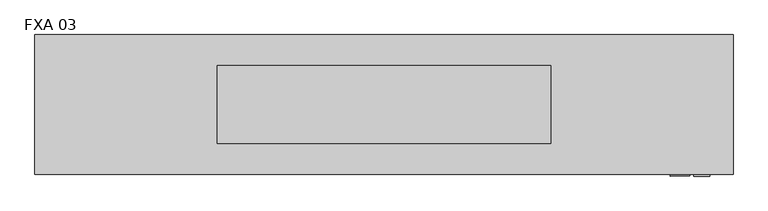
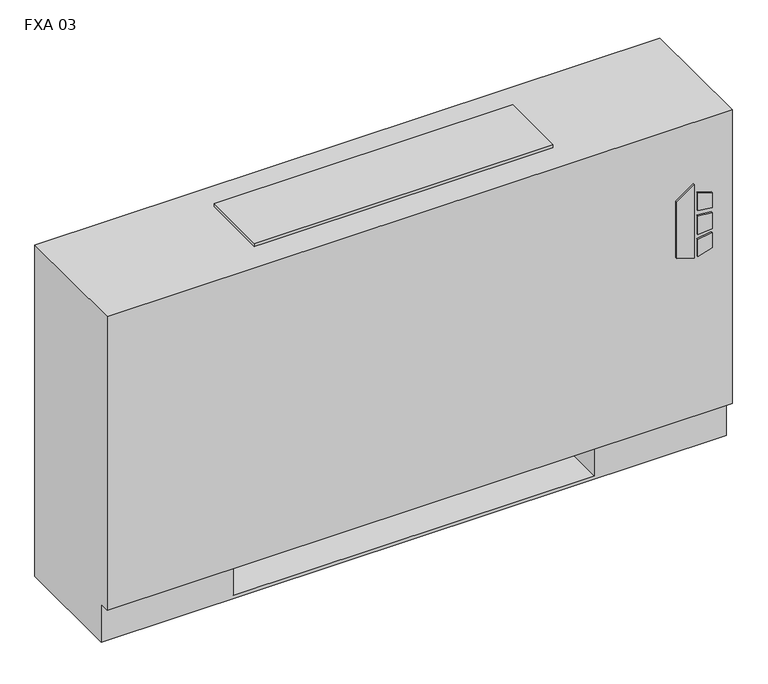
"""IFC4 building model written with IfcOpenShell, lengths in millimetres: proxy geometry, Vertical_Fan_Coil_Unit_-_FXA_-_IEC_-_4-Pipe_TS-FR_LH_2022 : FXA 03."""

from ifc_helpers import new_model, si_unit, point, frame, frame_2d, origin, place, context, project, spatial, polyline, circle_curve, trimmed, segment, composite_curve, outline, extrude, source, transform, mapped, element, save
from ifc_brep_helpers import plane_surface, revolved_surface, advanced_brep


def fxa_03_145d4354(model_context):
    return source(origin(), model_context, "Body", "SolidModel", [
        extrude(outline(polyline([(391.6086829, 620.7868862), (381.6606126, 652.9602728), (523.831537, 652.9602728), (500.8095309, 620.7868862), (391.6086829, 620.7868862)])), frame((0.0, 12.7, 0.0), z_axis=(0.0, 1.0, 0.0), x_axis=(0.0, 0.0, 1.0)), (0.0, 0.0, 1.0), 3.175),
        extrude(outline(polyline([(470.6079683, 659.7186058), (467.4055757, 685.8), (496.6344168, 685.8), (504.6988318, 659.7186058), (470.6079683, 659.7186058)])), frame((0.0, 12.7, 0.0), z_axis=(0.0, 1.0, 0.0), x_axis=(0.0, 0.0, 1.0)), (0.0, 0.0, 1.0), 3.175),
        extrude(outline(polyline([(418.7444414, 685.8), (415.0789404, 659.7186058), (381.6606126, 659.7186058), (390.2948498, 685.8), (418.7444414, 685.8)])), frame((0.0, 12.7, 0.0), z_axis=(0.0, 1.0, 0.0), x_axis=(0.0, 0.0, 1.0)), (0.0, 0.0, 1.0), 3.175),
        extrude(outline(polyline([(458.0596028, 685.8), (460.3414292, 659.7186058), (424.4038806, 659.7186058), (427.1451456, 685.8), (458.0596028, 685.8)])), frame((0.0, 12.7, 0.0), z_axis=(0.0, 1.0, 0.0), x_axis=(0.0, 0.0, 1.0)), (0.0, 0.0, 1.0), 3.175),
        extrude(outline(polyline([(603.25, 223.266), (603.25, 81.534), (482.6, 81.534), (482.6, 223.266), (603.25, 223.266)])), frame((0.0, 0.0, 327.025), z_axis=(0.0, 0.0, 1.0), x_axis=(1.0, 0.0, 0.0)), (0.0, 0.0, 1.0), 260.35),
        extrude(outline(composite_curve([segment(trimmed(circle_curve(frame_2d((-241.3, 130.175)), 9.525), [point((-250.825, 130.175))], [point((-231.775, 130.175))], False, "CARTESIAN"), True, "CONTINUOUS"), segment(trimmed(circle_curve(frame_2d((-241.3, 130.175)), 9.525), [point((-231.775, 130.175))], [point((-250.825, 130.175))], False, "CARTESIAN"), True, "CONTINUOUS")], self_intersect=False)), frame((0.0, 0.0, 101.6), z_axis=(0.0, 0.0, 1.0), x_axis=(1.0, 0.0, 0.0)), (0.0, 0.0, 1.0), 25.4),
        extrude(outline(polyline([(-336.55, 63.5), (-336.55, 196.85), (-177.8, 196.85), (-177.8, 63.5), (-336.55, 63.5)])), frame((0.0, 0.0, 127.0), z_axis=(0.0, 0.0, 1.0), x_axis=(1.0, 0.0, 0.0)), (0.0, 0.0, 1.0), 50.8),
        extrude(outline(composite_curve([segment(trimmed(circle_curve(frame_2d((117.475, 472.44)), 7.9375), [point((117.475, 480.3775))], [point((117.475, 464.5025))], False, "CARTESIAN"), True, "CONTINUOUS"), segment(trimmed(circle_curve(frame_2d((117.475, 472.44)), 7.9375), [point((117.475, 464.5025))], [point((117.475, 480.3775))], False, "CARTESIAN"), True, "CONTINUOUS")], self_intersect=False)), frame((-228.6, 0.0, 0.0), z_axis=(1.0, 0.0, 0.0), x_axis=(0.0, 1.0, 0.0)), (0.0, 0.0, 1.0), 50.8),
        extrude(outline(composite_curve([segment(trimmed(circle_curve(frame_2d((164.0586, 445.897)), 7.9375), [point((164.0586, 453.8345))], [point((164.0586, 437.9595))], False, "CARTESIAN"), True, "CONTINUOUS"), segment(trimmed(circle_curve(frame_2d((164.0586, 445.897)), 7.9375), [point((164.0586, 437.9595))], [point((164.0586, 453.8345))], False, "CARTESIAN"), True, "CONTINUOUS")], self_intersect=False)), frame((-228.6, 0.0, 0.0), z_axis=(1.0, 0.0, 0.0), x_axis=(0.0, 1.0, 0.0)), (0.0, 0.0, 1.0), 50.8),
        extrude(outline(composite_curve([segment(trimmed(circle_curve(frame_2d((130.175, 554.99)), 7.9502), [point((130.175, 562.9402))], [point((130.175, 547.0398))], False, "CARTESIAN"), True, "CONTINUOUS"), segment(trimmed(circle_curve(frame_2d((130.175, 554.99)), 7.9502), [point((130.175, 547.0398))], [point((130.175, 562.9402))], False, "CARTESIAN"), True, "CONTINUOUS")], self_intersect=False)), frame((-228.6, 0.0, 0.0), z_axis=(1.0, 0.0, 0.0), x_axis=(0.0, 1.0, 0.0)), (0.0, 0.0, 1.0), 50.8),
        extrude(outline(composite_curve([segment(trimmed(circle_curve(frame_2d((53.975, 416.56)), 7.9502), [point((53.975, 424.5102))], [point((53.975, 408.6098))], False, "CARTESIAN"), True, "CONTINUOUS"), segment(trimmed(circle_curve(frame_2d((53.975, 416.56)), 7.9502), [point((53.975, 408.6098))], [point((53.975, 424.5102))], False, "CARTESIAN"), True, "CONTINUOUS")], self_intersect=False)), frame((-228.6, 0.0, 0.0), z_axis=(1.0, 0.0, 0.0), x_axis=(0.0, 1.0, 0.0)), (0.0, 0.0, 1.0), 50.8),
        advanced_brep(
        [(723.9, 244.475, 641.35), (-419.1, 244.475, 641.35), (-419.1, 15.875, 641.35), (723.9, 15.875, 641.35), (-419.1, 244.475, 0.0), (723.9, 244.475, 0.0), (723.9, 34.925, 0.0), (-419.1, 34.925, 0.0), (482.6, 244.475, 73.025), (711.2, 244.475, 73.025), (711.2, 244.475, 628.65), (482.6, 244.475, 628.65), (482.6, 244.475, 414.8650565), (511.175, 244.475, 414.8650565), (511.175, 244.475, 385.2349435), (482.6, 244.475, 385.2349435), (482.6, 244.475, 287.3375), (511.175, 244.475, 287.3375), (511.175, 244.475, 258.7625), (482.6, 244.475, 258.7625), (482.6, 244.475, 141.2875), (511.175, 244.475, 141.2875), (511.175, 244.475, 112.7125), (482.6, 244.475, 112.7125), (-177.8, 244.475, 628.65), (-406.4, 244.475, 628.65), (-406.4, 244.475, 73.025), (-177.8, 244.475, 73.025), (-177.8, 244.475, 112.7125), (-206.375, 244.475, 112.7125), (-206.375, 244.475, 141.2875), (-177.8, 244.475, 141.2875), (-177.8, 244.475, 258.7625), (-206.375, 244.475, 258.7625), (-206.375, 244.475, 287.3375), (-177.8, 244.475, 287.3375), (-177.8, 244.475, 385.2349435), (-206.375, 244.475, 385.2349435), (-206.375, 244.475, 414.8650565), (-177.8, 244.475, 414.8650565), (500.8626, 244.475, 127.0), (489.7374, 244.475, 127.0), (500.8626, 244.475, 400.05), (489.7374, 244.475, 400.05), (500.8626, 244.475, 273.05), (489.7374, 244.475, 273.05), (-184.9374, 244.475, 127.0), (-196.0626, 244.475, 127.0), (-184.9374, 244.475, 273.05), (-196.0626, 244.475, 273.05), (-184.9374, 244.475, 400.05), (-196.0626, 244.475, 400.05), (-419.1, 34.925, 73.025), (-419.1, 15.875, 73.025), (723.9, 15.875, 73.025), (723.9, 34.925, 73.025), (-177.8, 34.925, 73.025), (-177.8, 219.075, 73.025), (482.6, 219.075, 73.025), (482.6, 34.925, 73.025), (482.6, 34.925, 6.35), (-177.8, 34.925, 6.35), (482.6, 41.275, 628.65), (711.2, 41.275, 628.65), (711.2, 41.275, 73.025), (482.6, 41.275, 73.025), (-177.8, 41.275, 628.65), (-177.8, 41.275, 73.025), (-406.4, 41.275, 73.025), (-406.4, 41.275, 628.65), (482.6, 219.075, 73.025), (482.6, 238.125, 112.7125), (482.6, 238.125, 141.2875), (482.6, 238.125, 258.7625), (482.6, 238.125, 287.3375), (482.6, 238.125, 385.2349435), (482.6, 238.125, 414.8650565), (-177.8, 219.075, 73.025), (-177.8, 238.125, 414.8650565), (-177.8, 238.125, 385.2349435), (-177.8, 238.125, 287.3375), (-177.8, 238.125, 258.7625), (-177.8, 238.125, 141.2875), (-177.8, 238.125, 112.7125), (-177.8, 219.075, 6.35), (482.6, 219.075, 6.35), (511.175, 238.125, 112.7125), (511.175, 238.125, 141.2875), (489.7374, 238.125, 127.0), (500.8626, 238.125, 127.0), (511.175, 238.125, 258.7625), (511.175, 238.125, 287.3375), (489.7374, 238.125, 273.05), (500.8626, 238.125, 273.05), (511.175, 238.125, 385.2349435), (511.175, 238.125, 414.8650565), (489.7374, 238.125, 400.05), (500.8626, 238.125, 400.05), (-206.375, 238.125, 141.2875), (-206.375, 238.125, 112.7125), (-196.0626, 238.125, 127.0), (-184.9374, 238.125, 127.0), (-206.375, 238.125, 287.3375), (-206.375, 238.125, 258.7625), (-196.0626, 238.125, 273.05), (-184.9374, 238.125, 273.05), (-206.375, 238.125, 414.8650565), (-206.375, 238.125, 385.2349435), (-196.0626, 238.125, 400.05), (-184.9374, 238.125, 400.05)],
        [
            (0, 1),
            (1, 2),
            (2, 3),
            (3, 0),
            (4, 5),
            (5, 6),
            (6, 7),
            (7, 4),
            (0, 5),
            (4, 1),
            (8, 9),
            (9, 10),
            (10, 11),
            (11, 12),
            (12, 13),
            (13, 14),
            (14, 15),
            (15, 16),
            (16, 17),
            (17, 18),
            (18, 19),
            (19, 20),
            (20, 21),
            (21, 22),
            (22, 23),
            (23, 8),
            (24, 25),
            (25, 26),
            (26, 27),
            (27, 28),
            (28, 29),
            (29, 30),
            (30, 31),
            (31, 32),
            (32, 33),
            (33, 34),
            (34, 35),
            (35, 36),
            (36, 37),
            (37, 38),
            (38, 39),
            (39, 24),
            (40, 41, circle_curve(frame((495.3, 244.475, 127.0), z_axis=(0.0, -1.0, 0.0), x_axis=(-1.0, 0.0, 0.0)), 5.5626)),
            (41, 40, circle_curve(frame((495.3, 244.475, 127.0), z_axis=(0.0, -1.0, 0.0), x_axis=(-1.0, 0.0, 0.0)), 5.5626)),
            (42, 43, circle_curve(frame((495.3, 244.475, 400.05), z_axis=(0.0, -1.0, 0.0), x_axis=(-1.0, 0.0, 0.0)), 5.5626)),
            (43, 42, circle_curve(frame((495.3, 244.475, 400.05), z_axis=(0.0, -1.0, 0.0), x_axis=(-1.0, 0.0, 0.0)), 5.5626)),
            (44, 45, circle_curve(frame((495.3, 244.475, 273.05), z_axis=(0.0, -1.0, 0.0), x_axis=(-1.0, 0.0, 0.0)), 5.5626)),
            (45, 44, circle_curve(frame((495.3, 244.475, 273.05), z_axis=(0.0, -1.0, 0.0), x_axis=(-1.0, 0.0, 0.0)), 5.5626)),
            (46, 47, circle_curve(frame((-190.5, 244.475, 127.0), z_axis=(0.0, -1.0, 0.0), x_axis=(-1.0, 0.0, 0.0)), 5.5626)),
            (47, 46, circle_curve(frame((-190.5, 244.475, 127.0), z_axis=(0.0, -1.0, 0.0), x_axis=(-1.0, 0.0, 0.0)), 5.5626)),
            (48, 49, circle_curve(frame((-190.5, 244.475, 273.05), z_axis=(0.0, -1.0, 0.0), x_axis=(-1.0, 0.0, 0.0)), 5.5626)),
            (49, 48, circle_curve(frame((-190.5, 244.475, 273.05), z_axis=(0.0, -1.0, 0.0), x_axis=(-1.0, 0.0, 0.0)), 5.5626)),
            (50, 51, circle_curve(frame((-190.5, 244.475, 400.05), z_axis=(0.0, -1.0, 0.0), x_axis=(-1.0, 0.0, 0.0)), 5.5626)),
            (51, 50, circle_curve(frame((-190.5, 244.475, 400.05), z_axis=(0.0, -1.0, 0.0), x_axis=(-1.0, 0.0, 0.0)), 5.5626)),
            (7, 52),
            (52, 53),
            (53, 2),
            (53, 54),
            (54, 3),
            (54, 55),
            (55, 6),
            (52, 56),
            (56, 57),
            (57, 58),
            (58, 59),
            (59, 55),
            (59, 60),
            (60, 61),
            (61, 56),
            (62, 63),
            (63, 64),
            (64, 65),
            (65, 62),
            (66, 67),
            (67, 68),
            (68, 69),
            (69, 66),
            (65, 70),
            (70, 8),
            (23, 71),
            (71, 72),
            (72, 20),
            (19, 73),
            (73, 74),
            (74, 16),
            (15, 75),
            (75, 76),
            (76, 12),
            (11, 62),
            (64, 9),
            (63, 10),
            (69, 25),
            (24, 66),
            (68, 26),
            (67, 77),
            (77, 27),
            (39, 78),
            (78, 79),
            (79, 36),
            (35, 80),
            (80, 81),
            (81, 32),
            (31, 82),
            (82, 83),
            (83, 28),
            (57, 84),
            (84, 85),
            (85, 58),
            (85, 60),
            (84, 61),
            (71, 86),
            (86, 87),
            (87, 72),
            (88, 89, circle_curve(frame((495.3, 238.125, 127.0), z_axis=(0.0, 1.0, 0.0), x_axis=(-1.0, 0.0, 0.0)), 5.5626)),
            (89, 88, circle_curve(frame((495.3, 238.125, 127.0), z_axis=(0.0, 1.0, 0.0), x_axis=(-1.0, 0.0, 0.0)), 5.5626)),
            (73, 90),
            (90, 91),
            (91, 74),
            (92, 93, circle_curve(frame((495.3, 238.125, 273.05), z_axis=(0.0, 1.0, 0.0), x_axis=(-1.0, 0.0, 0.0)), 5.5626)),
            (93, 92, circle_curve(frame((495.3, 238.125, 273.05), z_axis=(0.0, 1.0, 0.0), x_axis=(-1.0, 0.0, 0.0)), 5.5626)),
            (75, 94),
            (94, 95),
            (95, 76),
            (96, 97, circle_curve(frame((495.3, 238.125, 400.05), z_axis=(0.0, 1.0, 0.0), x_axis=(-1.0, 0.0, 0.0)), 5.5626)),
            (97, 96, circle_curve(frame((495.3, 238.125, 400.05), z_axis=(0.0, 1.0, 0.0), x_axis=(-1.0, 0.0, 0.0)), 5.5626)),
            (98, 99),
            (99, 83),
            (82, 98),
            (100, 101, circle_curve(frame((-190.5, 238.125, 127.0), z_axis=(0.0, 1.0, 0.0), x_axis=(-1.0, 0.0, 0.0)), 5.5626)),
            (101, 100, circle_curve(frame((-190.5, 238.125, 127.0), z_axis=(0.0, 1.0, 0.0), x_axis=(-1.0, 0.0, 0.0)), 5.5626)),
            (102, 103),
            (103, 81),
            (80, 102),
            (104, 105, circle_curve(frame((-190.5, 238.125, 273.05), z_axis=(0.0, 1.0, 0.0), x_axis=(-1.0, 0.0, 0.0)), 5.5626)),
            (105, 104, circle_curve(frame((-190.5, 238.125, 273.05), z_axis=(0.0, 1.0, 0.0), x_axis=(-1.0, 0.0, 0.0)), 5.5626)),
            (106, 107),
            (107, 79),
            (78, 106),
            (108, 109, circle_curve(frame((-190.5, 238.125, 400.05), z_axis=(0.0, 1.0, 0.0), x_axis=(-1.0, 0.0, 0.0)), 5.5626)),
            (109, 108, circle_curve(frame((-190.5, 238.125, 400.05), z_axis=(0.0, 1.0, 0.0), x_axis=(-1.0, 0.0, 0.0)), 5.5626)),
            (87, 21),
            (86, 22),
            (91, 17),
            (90, 18),
            (95, 13),
            (94, 14),
            (30, 98),
            (99, 29),
            (34, 102),
            (103, 33),
            (38, 106),
            (107, 37),
            (88, 41),
            (40, 89),
            (96, 43),
            (42, 97),
            (92, 45),
            (44, 93),
            (100, 47),
            (46, 101),
            (104, 49),
            (48, 105),
            (108, 51),
            (50, 109),
        ],
        [
            plane_surface(frame((-419.1, 244.475, 641.35), z_axis=(0.0, 0.0, 1.0), x_axis=(-1.0, 0.0, 0.0))),
            plane_surface(frame((-419.1, 244.475, 0.0), z_axis=(0.0, 0.0, -1.0), x_axis=(1.0, 0.0, 0.0))),
            plane_surface(frame((723.9, 244.475, 641.35), z_axis=(0.0, 1.0, 0.0), x_axis=(0.0, 0.0, -1.0))),
            plane_surface(frame((-419.1, 244.475, 641.35), z_axis=(-1.0, 0.0, 0.0), x_axis=(0.0, 0.0, -1.0))),
            plane_surface(frame((-419.1, 15.875, 641.35), z_axis=(0.0, -1.0, 0.0), x_axis=(0.0, 0.0, -1.0))),
            plane_surface(frame((723.9, 15.875, 641.35), z_axis=(1.0, 0.0, 0.0), x_axis=(0.0, 0.0, -1.0))),
            plane_surface(frame((-419.1, 15.875, 73.025), z_axis=(0.0, 0.0, -1.0), x_axis=(1.0, 0.0, 0.0))),
            plane_surface(frame((-419.1, 34.925, 73.025), z_axis=(0.0, -1.0, 0.0), x_axis=(1.0, 0.0, 0.0))),
            plane_surface(frame((482.6, 41.275, 628.65), z_axis=(0.0, 1.0, 0.0), x_axis=(0.0, 0.0, -1.0))),
            plane_surface(frame((482.6, 41.275, 628.65), z_axis=(1.0, 0.0, 0.0), x_axis=(0.0, 1.0, 0.0))),
            plane_surface(frame((482.6, 41.275, 73.025), z_axis=(0.0, 0.0, 1.0), x_axis=(0.0, 1.0, 0.0))),
            plane_surface(frame((711.2, 41.275, 73.025), z_axis=(-1.0, 0.0, 0.0), x_axis=(0.0, 1.0, 0.0))),
            plane_surface(frame((711.2, 41.275, 628.65), z_axis=(0.0, 0.0, -1.0), x_axis=(0.0, 1.0, 0.0))),
            plane_surface(frame((-177.8, 41.275, 628.65), z_axis=(0.0, 0.0, -1.0), x_axis=(0.0, 1.0, 0.0))),
            plane_surface(frame((-406.4, 41.275, 628.65), z_axis=(1.0, 0.0, 0.0), x_axis=(0.0, 1.0, 0.0))),
            plane_surface(frame((-406.4, 41.275, 73.025), z_axis=(0.0, 0.0, 1.0), x_axis=(0.0, 1.0, 0.0))),
            plane_surface(frame((-177.8, 41.275, 73.025), z_axis=(-1.0, 0.0, 0.0), x_axis=(0.0, 1.0, 0.0))),
            plane_surface(frame((482.6, 219.075, 73.025), z_axis=(0.0, -1.0, 0.0), x_axis=(0.0, 0.0, -1.0))),
            plane_surface(frame((482.6, 219.075, 73.025), z_axis=(-1.0, 0.0, 0.0), x_axis=(0.0, -1.0, 0.0))),
            plane_surface(frame((482.6, 219.075, 6.35), z_axis=(0.0, 0.0, 1.0), x_axis=(0.0, -1.0, 0.0))),
            plane_surface(frame((-177.8, 219.075, 6.35), z_axis=(1.0, 0.0, 0.0), x_axis=(0.0, -1.0, 0.0))),
            plane_surface(frame((511.175, 238.125, 141.2875), z_axis=(0.0, -1.0, 0.0), x_axis=(-1.0, 0.0, 0.0))),
            plane_surface(frame((482.6, 244.475, 141.2875), z_axis=(0.0, 0.0, 1.0), x_axis=(0.0, -1.0, 0.0))),
            plane_surface(frame((511.175, 244.475, 141.2875), z_axis=(1.0, 0.0, 0.0), x_axis=(0.0, -1.0, 0.0))),
            plane_surface(frame((511.175, 244.475, 112.7125), z_axis=(0.0, 0.0, -1.0), x_axis=(0.0, -1.0, 0.0))),
            plane_surface(frame((482.6, 244.475, 287.3375), z_axis=(0.0, 0.0, 1.0), x_axis=(0.0, -1.0, 0.0))),
            plane_surface(frame((511.175, 244.475, 287.3375), z_axis=(1.0, 0.0, 0.0), x_axis=(0.0, -1.0, 0.0))),
            plane_surface(frame((511.175, 244.475, 258.7625), z_axis=(0.0, 0.0, -1.0), x_axis=(0.0, -1.0, 0.0))),
            plane_surface(frame((482.6, 244.475, 414.8650565), z_axis=(0.0, 0.0, 1.0), x_axis=(0.0, -1.0, 0.0))),
            plane_surface(frame((511.175, 244.475, 414.8650565), z_axis=(1.0, 0.0, 0.0), x_axis=(0.0, -1.0, 0.0))),
            plane_surface(frame((511.175, 244.475, 385.2349435), z_axis=(0.0, 0.0, -1.0), x_axis=(0.0, -1.0, 0.0))),
            plane_surface(frame((-206.375, 244.475, 141.2875), z_axis=(0.0, 0.0, 1.0), x_axis=(0.0, -1.0, 0.0))),
            plane_surface(frame((-177.8, 244.475, 112.7125), z_axis=(0.0, 0.0, -1.0), x_axis=(0.0, -1.0, 0.0))),
            plane_surface(frame((-206.375, 244.475, 112.7125), z_axis=(-1.0, 0.0, 0.0), x_axis=(0.0, -1.0, 0.0))),
            plane_surface(frame((-206.375, 244.475, 287.3375), z_axis=(0.0, 0.0, 1.0), x_axis=(0.0, -1.0, 0.0))),
            plane_surface(frame((-177.8, 244.475, 258.7625), z_axis=(0.0, 0.0, -1.0), x_axis=(0.0, -1.0, 0.0))),
            plane_surface(frame((-206.375, 244.475, 258.7625), z_axis=(-1.0, 0.0, 0.0), x_axis=(0.0, -1.0, 0.0))),
            plane_surface(frame((-206.375, 244.475, 414.8650565), z_axis=(0.0, 0.0, 1.0), x_axis=(0.0, -1.0, 0.0))),
            plane_surface(frame((-177.8, 244.475, 385.2349435), z_axis=(0.0, 0.0, -1.0), x_axis=(0.0, -1.0, 0.0))),
            plane_surface(frame((-206.375, 244.475, 385.2349435), z_axis=(-1.0, 0.0, 0.0), x_axis=(0.0, -1.0, 0.0))),
            revolved_surface(polyline([(489.73740000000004, 238.125, 127.0), (489.73740000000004, 244.475, 127.0)]), (495.3, 244.475, 127.0), (0.0, -1.0, 0.0)),
            revolved_surface(polyline([(489.73740000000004, 238.125, 400.05), (489.73740000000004, 244.475, 400.05)]), (495.3, 244.475, 400.05), (0.0, -1.0, 0.0)),
            revolved_surface(polyline([(489.73740000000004, 238.125, 273.05), (489.73740000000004, 244.475, 273.05)]), (495.3, 244.475, 273.05), (0.0, -1.0, 0.0)),
            revolved_surface(polyline([(-196.0626, 238.125, 127.0), (-196.0626, 244.475, 127.0)]), (-190.5, 244.475, 127.0), (0.0, -1.0, 0.0)),
            revolved_surface(polyline([(-196.0626, 238.125, 273.05), (-196.0626, 244.475, 273.05)]), (-190.5, 244.475, 273.05), (0.0, -1.0, 0.0)),
            revolved_surface(polyline([(-196.0626, 238.125, 400.05), (-196.0626, 244.475, 400.05)]), (-190.5, 244.475, 400.05), (0.0, -1.0, 0.0)),
        ],
        [
            (0, [[1, 2, 3, 4]]),
            (1, [[5, 6, 7, 8]]),
            (2, [[-1, 9, -5, 10], [11, 12, 13, 14, 15, 16, 17, 18, 19, 20, 21, 22, 23, 24, 25, 26], [27, 28, 29, 30, 31, 32, 33, 34, 35, 36, 37, 38, 39, 40, 41, 42], [43, 44], [45, 46], [47, 48], [49, 50], [51, 52], [53, 54]]),
            (3, [[-2, -10, -8, 55, 56, 57]]),
            (4, [[-3, -57, 58, 59]]),
            (5, [[-4, -59, 60, 61, -6, -9]]),
            (6, [[-56, 62, 63, 64, 65, 66, -60, -58]]),
            (7, [[-7, -61, -66, 67, 68, 69, -62, -55]]),
            (8, [[70, 71, 72, 73]]),
            (8, [[74, 75, 76, 77]]),
            (9, [[-73, 78, 79, -26, 80, 81, 82, -22, 83, 84, 85, -18, 86, 87, 88, -14, 89]]),
            (10, [[-72, 90, -11, -79, -78]]),
            (11, [[-71, 91, -12, -90]]),
            (12, [[-70, -89, -13, -91]]),
            (13, [[-77, 92, -27, 93]]),
            (14, [[-76, 94, -28, -92]]),
            (15, [[-75, 95, 96, -29, -94]]),
            (16, [[-74, -93, -42, 97, 98, 99, -38, 100, 101, 102, -34, 103, 104, 105, -30, -96, -95]]),
            (17, [[-64, 106, 107, 108]]),
            (18, [[-108, 109, -67, -65]]),
            (19, [[-107, 110, -68, -109]]),
            (20, [[-106, -63, -69, -110]]),
            (21, [[111, 112, 113, -81], [114, 115]]),
            (21, [[116, 117, 118, -84], [119, 120]]),
            (21, [[121, 122, 123, -87], [124, 125]]),
            (21, [[126, 127, -104, 128], [129, 130]]),
            (21, [[131, 132, -101, 133], [134, 135]]),
            (21, [[136, 137, -98, 138], [139, 140]]),
            (22, [[-113, 141, -23, -82]]),
            (23, [[-112, 142, -24, -141]]),
            (24, [[-111, -80, -25, -142]]),
            (25, [[-118, 143, -19, -85]]),
            (26, [[-117, 144, -20, -143]]),
            (27, [[-116, -83, -21, -144]]),
            (28, [[-123, 145, -15, -88]]),
            (29, [[-122, 146, -16, -145]]),
            (30, [[-121, -86, -17, -146]]),
            (31, [[-128, -103, -33, 147]]),
            (32, [[-127, 148, -31, -105]]),
            (33, [[-126, -147, -32, -148]]),
            (34, [[-133, -100, -37, 149]]),
            (35, [[-132, 150, -35, -102]]),
            (36, [[-131, -149, -36, -150]]),
            (37, [[-138, -97, -41, 151]]),
            (38, [[-137, 152, -39, -99]]),
            (39, [[-136, -151, -40, -152]]),
            (40, [[153, -43, 154, -114]]),
            (40, [[-153, -115, -154, -44]]),
            (41, [[155, -45, 156, -124]]),
            (41, [[-155, -125, -156, -46]]),
            (42, [[157, -47, 158, -119]]),
            (42, [[-157, -120, -158, -48]]),
            (43, [[159, -49, 160, -129]]),
            (43, [[-159, -130, -160, -50]]),
            (44, [[161, -51, 162, -134]]),
            (44, [[-161, -135, -162, -52]]),
            (45, [[163, -53, 164, -139]]),
            (45, [[-163, -140, -164, -54]]),
        ],
    ),
        extrude(outline(polyline([(425.45, 193.675), (425.45, 66.675), (-120.65, 66.675), (-120.65, 193.675), (425.45, 193.675)])), frame((0.0, 0.0, 641.35), z_axis=(0.0, 0.0, 1.0), x_axis=(1.0, 0.0, 0.0)), (0.0, 0.0, 1.0), 6.35),
    ])


if __name__ == "__main__":
    model = new_model("IFC4")
    model_context = context("Model", 3, world=origin())
    ifc_project = project(units=[si_unit("LENGTHUNIT", "METRE", prefix="MILLI")], contexts=[model_context])
    site = spatial("IfcSite", under=ifc_project)
    building = spatial("IfcBuilding", under=site)
    placement = place(None, origin())
    fxa_03_shape = fxa_03_145d4354(model_context)
    element("IfcBuildingElementProxy", 1, Name="Vertical_Fan_Coil_Unit_-_FXA_-_IEC_-_4-Pipe_TS-FR_LH_2022 : FXA 03", ObjectType="Vertical_Fan_Coil_Unit_-_FXA_-_IEC_-_4-Pipe_TS-FR_LH_2022 : FXA 03", at=placement, inside=building, context=model_context, shape_type="MappedRepresentation", body=[
        mapped(fxa_03_shape, transform((0.0, 0.0, 0.0), x_axis=(1.0, 0.0, 0.0), y_axis=(0.0, 1.0, 0.0), z_axis=(0.0, 0.0, 1.0))),
    ])
    save(model, "model.ifc")
